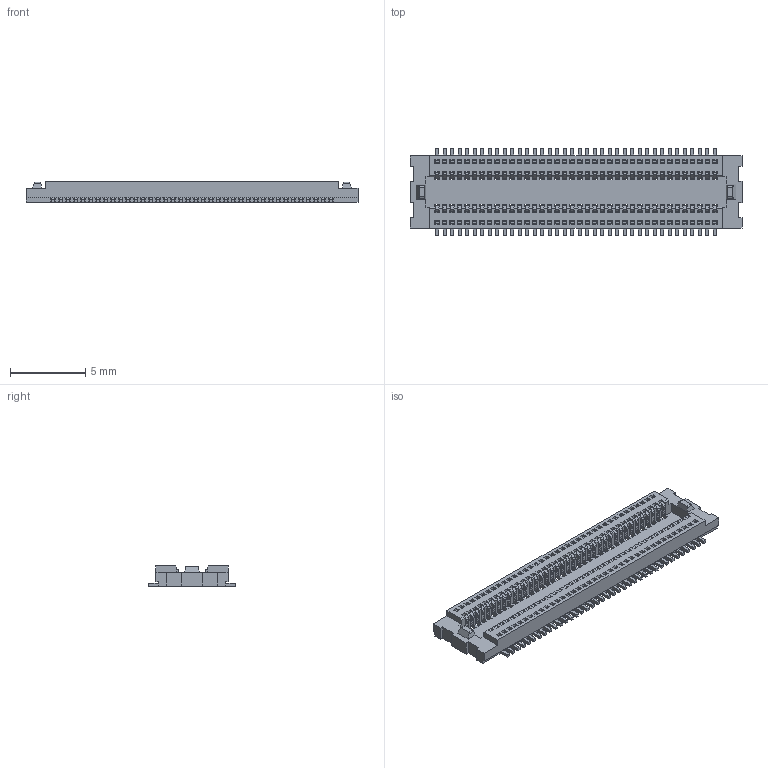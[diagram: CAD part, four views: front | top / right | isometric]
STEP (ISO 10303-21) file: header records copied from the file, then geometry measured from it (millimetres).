
FILE_DESCRIPTION(('CATIA V5 STEP Exchange'),'2;1');
FILE_NAME('F:\黄富鸿\板对板\0.5 单槽\无柱\母座\H1.35\HC-PBB05-1-76-F-H1.35-G1-R-06 (BTB0.5 单槽 母座 立贴 编带)-HCTL.stp','2026-01-23T03:51:44+00:00',('none'),('none'),'CATIA Version 5 Release 20 GA (IN-10)','CATIA V5 STEP AP203','none');
FILE_SCHEMA(('CONFIG_CONTROL_DESIGN'));
Products named in the file (1): Part2
Bounding box: 22.1 x 5.76 x 1.35 mm (x, y, z)
Volume: 77.9 mm3; surface area: 753.8 mm2
Topology: 77 solids, 77 shells, 3398 faces, 10412 edges, 6940 vertices
Faces by surface type: plane 2330, cylinder 1068
Entity records: 98644 total; most frequent: ORIENTED_EDGE 20824, CARTESIAN_POINT 17685, DIRECTION 10912, EDGE_CURVE 10412, VECTOR 8276, LINE 8276, VERTEX_POINT 6940, EDGE_LOOP 3474
